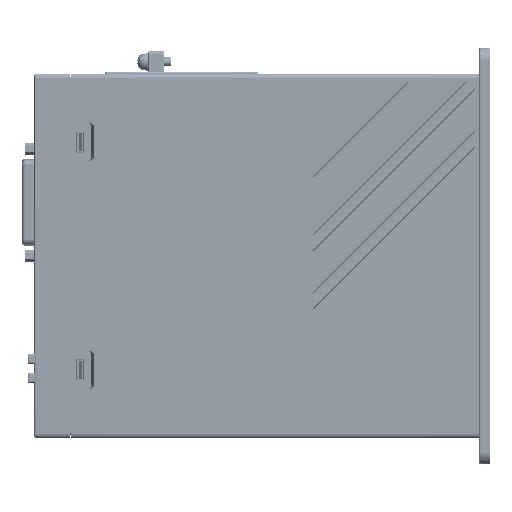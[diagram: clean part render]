
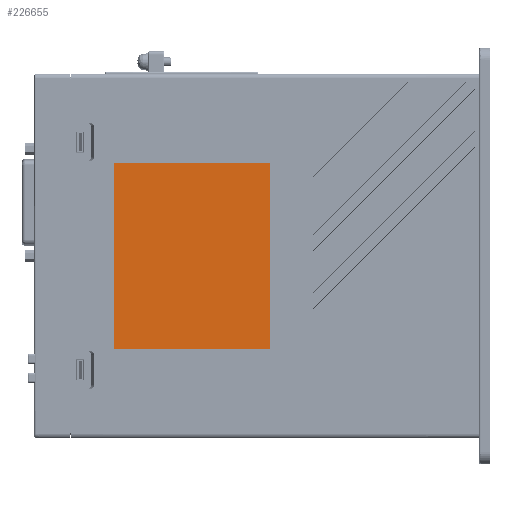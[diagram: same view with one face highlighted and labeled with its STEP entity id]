
A CAD part, left-side view. The second image highlights one B-rep face of the part: STEP entity #226655.
In plain terms, the highlighted planar face has unit normal (-1, 0, 0).
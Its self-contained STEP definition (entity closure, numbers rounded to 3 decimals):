
#202842=CARTESIAN_POINT('',(0.3,164.5,-132.001));
#202843=DIRECTION('',(-1.,0.,0.));
#202844=DIRECTION('',(0.,1.,0.));
#202845=AXIS2_PLACEMENT_3D('',#202842,#202843,#202844);
#202847=DIRECTION('',(0.,0.,-1.));
#202848=VECTOR('',#202847,81.);
#202849=CARTESIAN_POINT('',(0.3,165.,-51.001));
#202850=LINE('',#202849,#202848);
#202851=CARTESIAN_POINT('',(0.3,164.5,-51.001));
#202852=DIRECTION('',(-1.,0.,0.));
#202853=DIRECTION('',(0.,0.,1.));
#202854=AXIS2_PLACEMENT_3D('',#202851,#202852,#202853);
#202856=DIRECTION('',(0.,1.,0.));
#202857=VECTOR('',#202856,67.5);
#202858=CARTESIAN_POINT('',(0.3,97.,-50.501));
#202859=LINE('',#202858,#202857);
#202860=CARTESIAN_POINT('',(0.3,97.,-51.001));
#202861=DIRECTION('',(-1.,0.,0.));
#202862=DIRECTION('',(0.,-1.,0.));
#202863=AXIS2_PLACEMENT_3D('',#202860,#202861,#202862);
#202865=DIRECTION('',(0.,0.,1.));
#202866=VECTOR('',#202865,81.);
#202867=CARTESIAN_POINT('',(0.3,96.5,-132.001));
#202868=LINE('',#202867,#202866);
#202869=CARTESIAN_POINT('',(0.3,97.,-132.001));
#202870=DIRECTION('',(-1.,0.,0.));
#202871=DIRECTION('',(0.,0.,-1.));
#202872=AXIS2_PLACEMENT_3D('',#202869,#202870,#202871);
#202874=DIRECTION('',(0.,-1.,0.));
#202875=VECTOR('',#202874,67.5);
#202876=CARTESIAN_POINT('',(0.3,164.5,-132.501));
#202877=LINE('',#202876,#202875);
#205845=CARTESIAN_POINT('',(0.3,165.,-132.001));
#205846=CARTESIAN_POINT('',(0.3,164.5,-132.501));
#205847=VERTEX_POINT('',#205845);
#205848=VERTEX_POINT('',#205846);
#205853=CARTESIAN_POINT('',(0.3,164.5,-50.501));
#205854=CARTESIAN_POINT('',(0.3,165.,-51.001));
#205855=VERTEX_POINT('',#205853);
#205856=VERTEX_POINT('',#205854);
#205861=CARTESIAN_POINT('',(0.3,96.5,-51.001));
#205862=CARTESIAN_POINT('',(0.3,97.,-50.501));
#205863=VERTEX_POINT('',#205861);
#205864=VERTEX_POINT('',#205862);
#205869=CARTESIAN_POINT('',(0.3,97.,-132.501));
#205870=CARTESIAN_POINT('',(0.3,96.5,-132.001));
#205871=VERTEX_POINT('',#205869);
#205872=VERTEX_POINT('',#205870);
#226634=CARTESIAN_POINT('',(0.3,5.,-91.501));
#226635=DIRECTION('',(-1.,0.,0.));
#226636=DIRECTION('',(0.,0.,1.));
#226637=AXIS2_PLACEMENT_3D('',#226634,#226635,#226636);
#226638=PLANE('',#226637);
#226640=ORIENTED_EDGE('',*,*,#226639,.F.);
#226642=ORIENTED_EDGE('',*,*,#226641,.F.);
#226643=ORIENTED_EDGE('',*,*,#226618,.F.);
#226644=ORIENTED_EDGE('',*,*,#226601,.F.);
#226646=ORIENTED_EDGE('',*,*,#226645,.F.);
#226648=ORIENTED_EDGE('',*,*,#226647,.F.);
#226650=ORIENTED_EDGE('',*,*,#226649,.F.);
#226652=ORIENTED_EDGE('',*,*,#226651,.F.);
#226653=EDGE_LOOP('',(#226640,#226642,#226643,#226644,#226646,#226648,#226650,
#226652));
#226654=FACE_OUTER_BOUND('',#226653,.F.);
#202846=CIRCLE('',#202845,0.5);
#202855=CIRCLE('',#202854,0.5);
#202864=CIRCLE('',#202863,0.5);
#202873=CIRCLE('',#202872,0.5);
#226601=EDGE_CURVE('',#205864,#205855,#202859,.T.);
#226618=EDGE_CURVE('',#205855,#205856,#202855,.T.);
#226639=EDGE_CURVE('',#205847,#205848,#202846,.T.);
#226641=EDGE_CURVE('',#205856,#205847,#202850,.T.);
#226645=EDGE_CURVE('',#205863,#205864,#202864,.T.);
#226647=EDGE_CURVE('',#205872,#205863,#202868,.T.);
#226649=EDGE_CURVE('',#205871,#205872,#202873,.T.);
#226651=EDGE_CURVE('',#205848,#205871,#202877,.T.);
#226655=ADVANCED_FACE('',(#226654),#226638,.T.);
